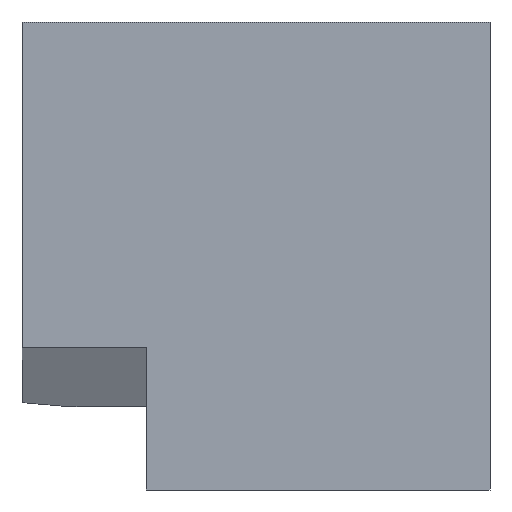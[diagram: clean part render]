
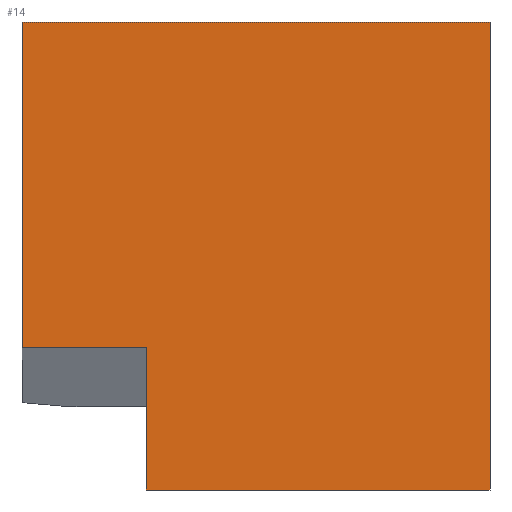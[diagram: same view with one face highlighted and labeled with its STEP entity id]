
A CAD part, front view. The second image highlights one B-rep face of the part: STEP entity #14.
In plain terms, the highlighted planar face has unit normal (0, -1, 0).
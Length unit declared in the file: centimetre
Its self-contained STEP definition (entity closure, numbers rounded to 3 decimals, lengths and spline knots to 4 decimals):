
#14 = ADVANCED_FACE ( 'NONE', ( #582 ), #349, .F. ) ;
#16 = VERTEX_POINT ( 'NONE', #516 ) ;
#31 = CARTESIAN_POINT ( 'NONE',  ( 1000., 0., 1000. ) ) ;
#34 = CARTESIAN_POINT ( 'NONE',  ( 0., 0., 1000. ) ) ;
#93 = EDGE_LOOP ( 'NONE', ( #1002, #157, #602, #700, #795, #555 ) ) ;
#97 = VERTEX_POINT ( 'NONE', #345 ) ;
#110 = EDGE_CURVE ( 'NONE', #389, #470, #431, .T. ) ;
#112 = VERTEX_POINT ( 'NONE', #834 ) ;
#156 = CARTESIAN_POINT ( 'NONE',  ( 0., 0., 1000. ) ) ;
#157 = ORIENTED_EDGE ( 'NONE', *, *, #110, .F. ) ;
#183 = VECTOR ( 'NONE', #577, 100. ) ;
#203 = VECTOR ( 'NONE', #421, 100. ) ;
#225 = VECTOR ( 'NONE', #848, 100. ) ;
#234 = LINE ( 'NONE', #905, #527 ) ;
#267 = LINE ( 'NONE', #31, #183 ) ;
#317 = DIRECTION ( 'NONE',  ( 1., 0., 0. ) ) ;
#345 = CARTESIAN_POINT ( 'NONE',  ( 1000., 0., 1000. ) ) ;
#349 = PLANE ( 'NONE',  #575 ) ;
#355 = CARTESIAN_POINT ( 'NONE',  ( 0., 0., 303.7733 ) ) ;
#358 = CARTESIAN_POINT ( 'NONE',  ( 265.9117, 0., 303.7733 ) ) ;
#389 = VERTEX_POINT ( 'NONE', #800 ) ;
#421 = DIRECTION ( 'NONE',  ( 0., 0., -1. ) ) ;
#431 = LINE ( 'NONE', #358, #444 ) ;
#444 = VECTOR ( 'NONE', #663, 100. ) ;
#466 = VERTEX_POINT ( 'NONE', #723 ) ;
#467 = EDGE_CURVE ( 'NONE', #466, #470, #881, .T. ) ;
#470 = VERTEX_POINT ( 'NONE', #355 ) ;
#516 = CARTESIAN_POINT ( 'NONE',  ( 265.9117, 0., 0. ) ) ;
#527 = VECTOR ( 'NONE', #991, 100. ) ;
#555 = ORIENTED_EDGE ( 'NONE', *, *, #808, .F. ) ;
#575 = AXIS2_PLACEMENT_3D ( 'NONE', #654, #578, #596 ) ;
#577 = DIRECTION ( 'NONE',  ( 0., 0., -1. ) ) ;
#578 = DIRECTION ( 'NONE',  ( 0., 1., 0. ) ) ;
#582 = FACE_OUTER_BOUND ( 'NONE', #93, .T. ) ;
#596 = DIRECTION ( 'NONE',  ( 0., 0., 1. ) ) ;
#601 = LINE ( 'NONE', #156, #690 ) ;
#602 = ORIENTED_EDGE ( 'NONE', *, *, #872, .F. ) ;
#654 = CARTESIAN_POINT ( 'NONE',  ( 0., 0., 1000. ) ) ;
#663 = DIRECTION ( 'NONE',  ( -1., 0., 0. ) ) ;
#690 = VECTOR ( 'NONE', #317, 100. ) ;
#700 = ORIENTED_EDGE ( 'NONE', *, *, #864, .T. ) ;
#723 = CARTESIAN_POINT ( 'NONE',  ( 0., 0., 1000. ) ) ;
#758 = CARTESIAN_POINT ( 'NONE',  ( 0., 0., 0. ) ) ;
#795 = ORIENTED_EDGE ( 'NONE', *, *, #976, .F. ) ;
#800 = CARTESIAN_POINT ( 'NONE',  ( 265.9117, 0., 303.7733 ) ) ;
#808 = EDGE_CURVE ( 'NONE', #466, #97, #601, .T. ) ;
#834 = CARTESIAN_POINT ( 'NONE',  ( 1000., 0., 0. ) ) ;
#842 = LINE ( 'NONE', #758, #225 ) ;
#848 = DIRECTION ( 'NONE',  ( 1., 0., 0. ) ) ;
#864 = EDGE_CURVE ( 'NONE', #16, #112, #842, .T. ) ;
#872 = EDGE_CURVE ( 'NONE', #16, #389, #234, .T. ) ;
#881 = LINE ( 'NONE', #34, #203 ) ;
#905 = CARTESIAN_POINT ( 'NONE',  ( 265.9117, 0., 303.7733 ) ) ;
#976 = EDGE_CURVE ( 'NONE', #97, #112, #267, .T. ) ;
#991 = DIRECTION ( 'NONE',  ( 0., 0., 1. ) ) ;
#1002 = ORIENTED_EDGE ( 'NONE', *, *, #467, .T. ) ;
